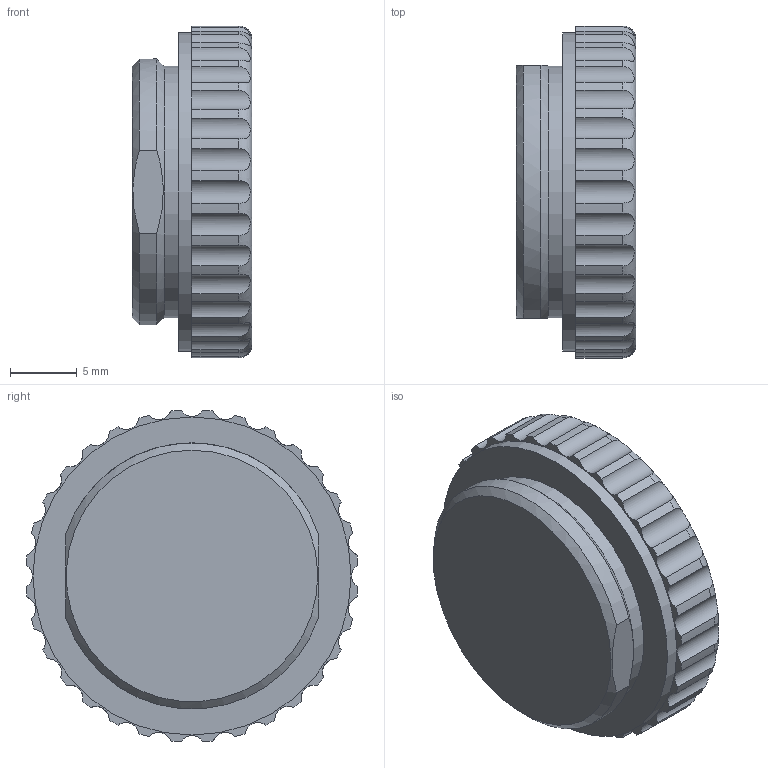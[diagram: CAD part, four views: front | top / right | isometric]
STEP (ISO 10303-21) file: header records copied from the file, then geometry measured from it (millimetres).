
FILE_DESCRIPTION( ( 'Unknown' ), '1' );
FILE_NAME( 'X:/SolidEdge/Models/Dokumentationen/Opto/Datalogic/vereinfachte Modelle/Neutralformate/ZLENS-OCS.9MM_PL.stp', 'Unknown', ( 'Unknown' ), ( 'Unknown' ), 'PSStep 19.0.9', 'Unknown', ' ' );
FILE_SCHEMA( ( 'AUTOMOTIVE_DESIGN { 1 0 10303 214 1 1 1 1 }' ) );
Length unit declared in the file: millimetre
Products named in the file (1): 1
Bounding box: 9 x 24.94 x 24.94 mm (x, y, z)
Volume: 3600.5 mm3; surface area: 1631.7 mm2
Topology: 1 solids, 1 shells, 77 faces, 218 edges, 145 vertices
Faces by surface type: cylinder 68, plane 6, cone 2, torus 1
Full cylindrical faces by diameter (mm): 18.9 x1, 23.9 x1
Entity records: 3638 total; most frequent: CARTESIAN_POINT 1010, DIRECTION 436, ORIENTED_EDGE 420, EDGE_CURVE 210, AXIS2_PLACEMENT_3D 184, VERTEX_POINT 142, CIRCLE 106, EDGE_LOOP 84
